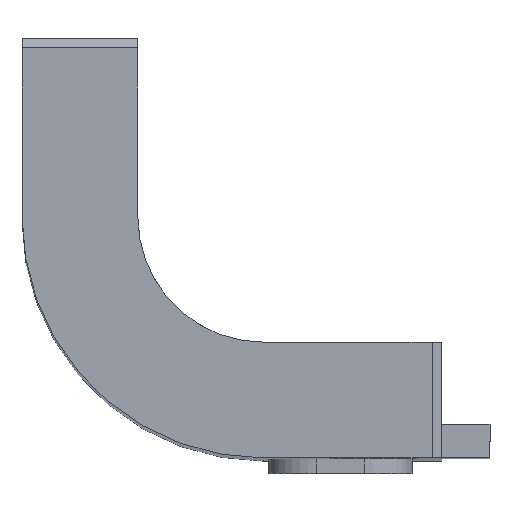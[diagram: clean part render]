
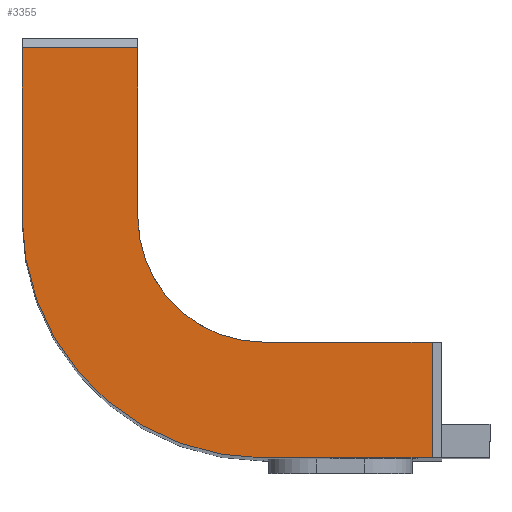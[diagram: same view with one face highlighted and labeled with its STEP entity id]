
A CAD part, top view. The second image highlights one B-rep face of the part: STEP entity #3355.
In plain terms, the highlighted planar face has unit normal (0, 0, 1).
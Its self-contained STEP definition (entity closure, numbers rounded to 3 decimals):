
#1 = DIRECTION ( 'NONE',  ( 1., 0., 0. ) ) ;
#38 = CARTESIAN_POINT ( 'NONE',  ( 17.5, -13., 373.5 ) ) ;
#39 = VERTEX_POINT ( 'NONE', #2393 ) ;
#286 = EDGE_CURVE ( 'NONE', #1225, #3357, #4082, .T. ) ;
#479 = LINE ( 'NONE', #38, #1311 ) ;
#547 = ORIENTED_EDGE ( 'NONE', *, *, #3322, .T. ) ;
#552 = DIRECTION ( 'NONE',  ( 0., -1., 0. ) ) ;
#621 = CARTESIAN_POINT ( 'NONE',  ( 0., 0., 373.5 ) ) ;
#748 = EDGE_CURVE ( 'NONE', #1471, #3528, #3230, .T. ) ;
#775 = CARTESIAN_POINT ( 'NONE',  ( 0., -25., 373.5 ) ) ;
#804 = LINE ( 'NONE', #860, #3003 ) ;
#860 = CARTESIAN_POINT ( 'NONE',  ( -13., 0., 373.5 ) ) ;
#880 = CARTESIAN_POINT ( 'NONE',  ( 0., 0., 373.5 ) ) ;
#975 = CARTESIAN_POINT ( 'NONE',  ( 0., -13., 373.5 ) ) ;
#978 = EDGE_CURVE ( 'NONE', #2163, #1471, #2549, .T. ) ;
#1049 = CARTESIAN_POINT ( 'NONE',  ( 0., 0., 373.5 ) ) ;
#1106 = CARTESIAN_POINT ( 'NONE',  ( 17.5, -13., 373.5 ) ) ;
#1214 = CARTESIAN_POINT ( 'NONE',  ( -13., 17.5, 373.5 ) ) ;
#1225 = VERTEX_POINT ( 'NONE', #1214 ) ;
#1240 = DIRECTION ( 'NONE',  ( 0., 0., 1. ) ) ;
#1265 = FACE_OUTER_BOUND ( 'NONE', #3403, .T. ) ;
#1311 = VECTOR ( 'NONE', #2778, 1000. ) ;
#1318 = VERTEX_POINT ( 'NONE', #1996 ) ;
#1378 = DIRECTION ( 'NONE',  ( 0., -1., 0. ) ) ;
#1420 = ORIENTED_EDGE ( 'NONE', *, *, #748, .T. ) ;
#1423 = CARTESIAN_POINT ( 'NONE',  ( -25., 17.5, 373.5 ) ) ;
#1471 = VERTEX_POINT ( 'NONE', #1741 ) ;
#1546 = ORIENTED_EDGE ( 'NONE', *, *, #3090, .F. ) ;
#1633 = AXIS2_PLACEMENT_3D ( 'NONE', #880, #1240, #2949 ) ;
#1741 = CARTESIAN_POINT ( 'NONE',  ( 0., -25., 373.5 ) ) ;
#1762 = DIRECTION ( 'NONE',  ( -1., 0., 0. ) ) ;
#1837 = ORIENTED_EDGE ( 'NONE', *, *, #978, .T. ) ;
#1943 = ORIENTED_EDGE ( 'NONE', *, *, #3845, .T. ) ;
#1964 = LINE ( 'NONE', #3455, #3321 ) ;
#1970 = CIRCLE ( 'NONE', #1633, 13. ) ;
#1996 = CARTESIAN_POINT ( 'NONE',  ( 0., -13., 373.5 ) ) ;
#2085 = EDGE_CURVE ( 'NONE', #1225, #39, #804, .T. ) ;
#2144 = DIRECTION ( 'NONE',  ( 1., 0., 0. ) ) ;
#2163 = VERTEX_POINT ( 'NONE', #3083 ) ;
#2169 = VECTOR ( 'NONE', #2841, 1000. ) ;
#2263 = AXIS2_PLACEMENT_3D ( 'NONE', #1049, #2764, #3459 ) ;
#2264 = VERTEX_POINT ( 'NONE', #1106 ) ;
#2393 = CARTESIAN_POINT ( 'NONE',  ( -13., 0., 373.5 ) ) ;
#2549 = CIRCLE ( 'NONE', #4158, 25. ) ;
#2764 = DIRECTION ( 'NONE',  ( 0., 0., 1. ) ) ;
#2778 = DIRECTION ( 'NONE',  ( 0., 1., 0. ) ) ;
#2818 = DIRECTION ( 'NONE',  ( 0., 0., 1. ) ) ;
#2841 = DIRECTION ( 'NONE',  ( 1., 0., 0. ) ) ;
#2949 = DIRECTION ( 'NONE',  ( 1., 0., 0. ) ) ;
#2968 = ORIENTED_EDGE ( 'NONE', *, *, #3709, .F. ) ;
#3003 = VECTOR ( 'NONE', #552, 1000. ) ;
#3083 = CARTESIAN_POINT ( 'NONE',  ( -25., 0., 373.5 ) ) ;
#3087 = ORIENTED_EDGE ( 'NONE', *, *, #2085, .F. ) ;
#3090 = EDGE_CURVE ( 'NONE', #39, #1318, #1970, .T. ) ;
#3230 = LINE ( 'NONE', #775, #2169 ) ;
#3321 = VECTOR ( 'NONE', #1378, 1000. ) ;
#3322 = EDGE_CURVE ( 'NONE', #3528, #2264, #479, .T. ) ;
#3325 = LINE ( 'NONE', #975, #3638 ) ;
#3355 = ADVANCED_FACE ( 'NONE', ( #1265 ), #4157, .T. ) ;
#3357 = VERTEX_POINT ( 'NONE', #3488 ) ;
#3403 = EDGE_LOOP ( 'NONE', ( #1420, #547, #2968, #1546, #3087, #4309, #1943, #1837 ) ) ;
#3455 = CARTESIAN_POINT ( 'NONE',  ( -25., 0., 373.5 ) ) ;
#3459 = DIRECTION ( 'NONE',  ( 1., 0., 0. ) ) ;
#3488 = CARTESIAN_POINT ( 'NONE',  ( -25., 17.5, 373.5 ) ) ;
#3515 = VECTOR ( 'NONE', #1762, 1000. ) ;
#3528 = VERTEX_POINT ( 'NONE', #3617 ) ;
#3617 = CARTESIAN_POINT ( 'NONE',  ( 17.5, -25., 373.5 ) ) ;
#3638 = VECTOR ( 'NONE', #1, 1000. ) ;
#3709 = EDGE_CURVE ( 'NONE', #1318, #2264, #3325, .T. ) ;
#3845 = EDGE_CURVE ( 'NONE', #3357, #2163, #1964, .T. ) ;
#4082 = LINE ( 'NONE', #1423, #3515 ) ;
#4157 = PLANE ( 'NONE',  #2263 ) ;
#4158 = AXIS2_PLACEMENT_3D ( 'NONE', #621, #2818, #2144 ) ;
#4309 = ORIENTED_EDGE ( 'NONE', *, *, #286, .T. ) ;
